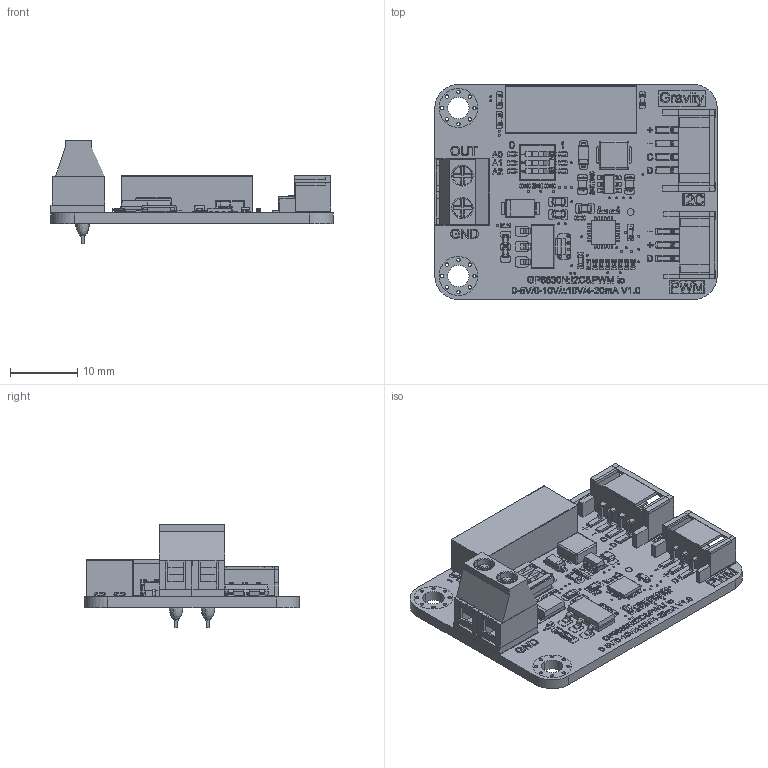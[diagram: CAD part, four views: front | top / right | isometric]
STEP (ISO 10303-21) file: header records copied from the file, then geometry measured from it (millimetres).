
FILE_DESCRIPTION(/* description */ (''),/* implementation_level */ '2;1');
FILE_NAME(/* name */ 'DFR1230',/* time_stamp */ '2026-08-17T16:10:18+08:00',/* author */ (''),/* organization */ (''),/* preprocessor_version */ 'ST-DEVELOPER v19.2',/* originating_system */ 'Rhino 8.0',/* authorisation */ '');
FILE_SCHEMA (('AUTOMOTIVE_DESIGN'));
Products named in the file (1): Document
Bounding box: 42 x 32 x 15.45 mm (x, y, z)
Volume: 3723.5 mm3; surface area: 7492 mm2
Topology: 542 solids, 560 shells, 7332 faces, 17977 edges, 11698 vertices
Faces by surface type: plane 5302, cylinder 1276, bspline 754
Entity records: 227469 total; most frequent: CARTESIAN_POINT 89466, ORIENTED_EDGE 35734, EDGE_CURVE 17921, B_SPLINE_CURVE_WITH_KNOTS 14763, VERTEX_POINT 11698, DIRECTION 9807, AXIS2_PLACEMENT_3D 8190, EDGE_LOOP 7755
